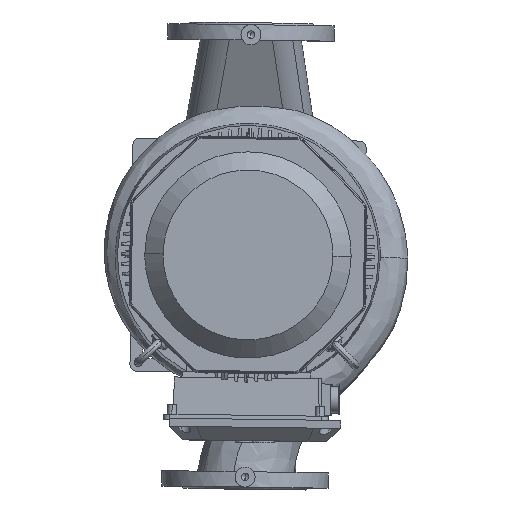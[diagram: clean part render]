
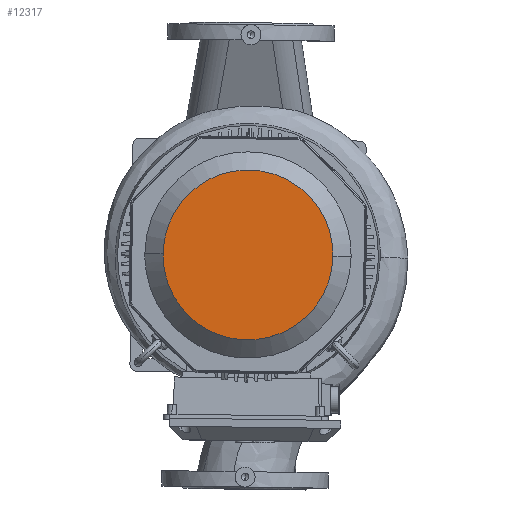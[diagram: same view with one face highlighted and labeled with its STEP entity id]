
A CAD part, top view. The second image highlights one B-rep face of the part: STEP entity #12317.
In plain terms, the highlighted free-form (B-spline) face has degree [1, 1] with [2, 2] control points.
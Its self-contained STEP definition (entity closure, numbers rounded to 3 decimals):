
#12317=ADVANCED_FACE('     F83',(#24736),#24737,.T.);
#12493=EDGE_CURVE('    E195',#25002,#25003,#25004,.T.);
#12497=EDGE_CURVE('    E195',#25003,#25002,#25008,.T.);
#24736=FACE_OUTER_BOUND('',#57685,.T.);
#24737=B_SPLINE_SURFACE_WITH_KNOTS('',1,1,((#57686,#57687),(#57688,#57689)),.UNSPECIFIED.,.F.,.F.,.F.,(2,2),(2,2),(0.044,0.955),(0.039,0.96),.UNSPECIFIED.);
#25002=VERTEX_POINT('',#59241);
#25003=VERTEX_POINT('',#59242);
#25004=(B_SPLINE_CURVE(2,(#59244,#59245,#59246,#59247,#59248),.UNSPECIFIED.,.F.,.F.)B_SPLINE_CURVE_WITH_KNOTS((3,2,3),(62.047,82.73,124.095),.UNSPECIFIED.)RATIONAL_B_SPLINE_CURVE((0.75,0.75,1.0,0.5,1.0))BOUNDED_CURVE()REPRESENTATION_ITEM('')GEOMETRIC_REPRESENTATION_ITEM()CURVE());
#25008=(B_SPLINE_CURVE(2,(#59262,#59263,#59264,#59265,#59266),.UNSPECIFIED.,.F.,.F.)B_SPLINE_CURVE_WITH_KNOTS((3,2,3),(0.0,41.365,62.047),.UNSPECIFIED.)RATIONAL_B_SPLINE_CURVE((1.0,0.5,1.0,0.75,0.75))BOUNDED_CURVE()REPRESENTATION_ITEM('')GEOMETRIC_REPRESENTATION_ITEM()CURVE());
#57685=EDGE_LOOP('',(#77371,#77372));
#57686=CARTESIAN_POINT('',(-148.051,129.131,-177.0));
#57687=CARTESIAN_POINT('',(-148.051,-126.525,-177.0));
#57688=CARTESIAN_POINT('',(107.447,129.131,-177.0));
#57689=CARTESIAN_POINT('',(107.447,-126.525,-177.0));
#59241=CARTESIAN_POINT('',(-147.622,1.096,-177.0));
#59242=CARTESIAN_POINT('',(107.438,1.096,-177.0));
#59244=CARTESIAN_POINT('',(-147.622,1.096,-177.0));
#59245=CARTESIAN_POINT('',(-147.622,-72.533,-177.0));
#59246=CARTESIAN_POINT('',(-83.857,-109.348,-177.0));
#59247=CARTESIAN_POINT('',(107.438,-219.792,-177.0));
#59248=CARTESIAN_POINT('',(107.438,1.096,-177.0));
#59262=CARTESIAN_POINT('',(107.438,1.096,-177.0));
#59263=CARTESIAN_POINT('',(107.438,221.985,-177.0));
#59264=CARTESIAN_POINT('',(-83.857,111.541,-177.0));
#59265=CARTESIAN_POINT('',(-147.622,74.726,-177.0));
#59266=CARTESIAN_POINT('',(-147.622,1.096,-177.0));
#77371=ORIENTED_EDGE('',*,*,#12497,.F.);
#77372=ORIENTED_EDGE('',*,*,#12493,.F.);
